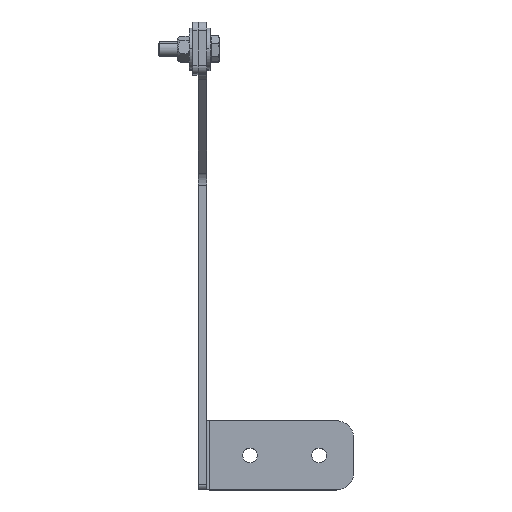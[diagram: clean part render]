
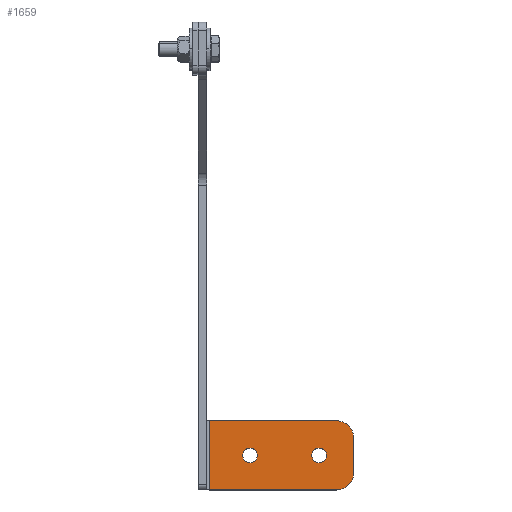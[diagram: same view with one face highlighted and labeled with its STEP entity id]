
A CAD part, top view. The second image highlights one B-rep face of the part: STEP entity #1659.
In plain terms, the highlighted planar face has unit normal (0, 0, 1) as drawn and (-1, 0, 0) by its records, which use the part's own axes.
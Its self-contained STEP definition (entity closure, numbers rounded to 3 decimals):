
#784 = CARTESIAN_POINT ( 'NONE',  ( 22.5, -235., 34.25 ) ) ;
#794 = DIRECTION ( 'NONE',  ( -1., 0., 0. ) ) ;
#795 = CARTESIAN_POINT ( 'NONE',  ( 22.5, -235., 70. ) ) ;
#796 = AXIS2_PLACEMENT_3D ( 'NONE', #795, #794, #823 ) ;
#799 = CIRCLE ( 'NONE', #796, 4.25 ) ;
#823 = DIRECTION ( 'NONE',  ( 0., 0., 1. ) ) ;
#1076 = VERTEX_POINT ( 'NONE', #2620 ) ;
#1174 = VERTEX_POINT ( 'NONE', #2887 ) ;
#1178 = EDGE_CURVE ( 'NONE', #1174, #5331, #2730, .T. ) ;
#1187 = VERTEX_POINT ( 'NONE', #2782 ) ;
#1217 = EDGE_CURVE ( 'NONE', #1621, #1594, #2760, .T. ) ;
#1567 = VERTEX_POINT ( 'NONE', #3360 ) ;
#1594 = VERTEX_POINT ( 'NONE', #3387 ) ;
#1604 = EDGE_CURVE ( 'NONE', #1567, #1621, #3536, .T. ) ;
#1621 = VERTEX_POINT ( 'NONE', #3615 ) ;
#1643 = EDGE_CURVE ( 'NONE', #1726, #1725, #3670, .T. ) ;
#1644 = EDGE_CURVE ( 'NONE', #1726, #1594, #3528, .T. ) ;
#1649 = EDGE_LOOP ( 'NONE', ( #1653, #1696 ) ) ;
#1653 = ORIENTED_EDGE ( 'NONE', *, *, #1664, .F. ) ;
#1654 = ORIENTED_EDGE ( 'NONE', *, *, #1697, .F. ) ;
#1657 = EDGE_CURVE ( 'NONE', #1686, #1567, #3568, .T. ) ;
#1659 = ADVANCED_FACE ( 'NONE', ( #3520, #3569, #3570 ), #3575, .T. ) ;
#1661 = ORIENTED_EDGE ( 'NONE', *, *, #1178, .F. ) ;
#1664 = EDGE_CURVE ( 'NONE', #1076, #1187, #3556, .T. ) ;
#1675 = EDGE_CURVE ( 'NONE', #1686, #1725, #3452, .T. ) ;
#1679 = ORIENTED_EDGE ( 'NONE', *, *, #1644, .T. ) ;
#1686 = VERTEX_POINT ( 'NONE', #3446 ) ;
#1689 = ORIENTED_EDGE ( 'NONE', *, *, #1604, .F. ) ;
#1690 = ORIENTED_EDGE ( 'NONE', *, *, #1675, .T. ) ;
#1693 = ORIENTED_EDGE ( 'NONE', *, *, #1643, .F. ) ;
#1695 = EDGE_LOOP ( 'NONE', ( #1693, #1679, #1703, #1689, #1710, #1690 ) ) ;
#1696 = ORIENTED_EDGE ( 'NONE', *, *, #5317, .F. ) ;
#1697 = EDGE_CURVE ( 'NONE', #5331, #1174, #3439, .T. ) ;
#1699 = EDGE_LOOP ( 'NONE', ( #1654, #1661 ) ) ;
#1703 = ORIENTED_EDGE ( 'NONE', *, *, #1217, .F. ) ;
#1710 = ORIENTED_EDGE ( 'NONE', *, *, #1657, .F. ) ;
#1725 = VERTEX_POINT ( 'NONE', #3592 ) ;
#1726 = VERTEX_POINT ( 'NONE', #3591 ) ;
#2620 = CARTESIAN_POINT ( 'NONE',  ( 22.5, -235., 74.25 ) ) ;
#2730 = CIRCLE ( 'NONE', #2923, 4.25 ) ;
#2753 = DIRECTION ( 'NONE',  ( 0., 0., 1. ) ) ;
#2754 = VECTOR ( 'NONE', #2753, 1000. ) ;
#2755 = CARTESIAN_POINT ( 'NONE',  ( 22.5, -215., 90. ) ) ;
#2760 = LINE ( 'NONE', #2755, #2754 ) ;
#2782 = CARTESIAN_POINT ( 'NONE',  ( 22.5, -235., 65.75 ) ) ;
#2887 = CARTESIAN_POINT ( 'NONE',  ( 22.5, -235., 25.75 ) ) ;
#2920 = DIRECTION ( 'NONE',  ( 0., 0., 1. ) ) ;
#2921 = DIRECTION ( 'NONE',  ( -1., 0., 0. ) ) ;
#2922 = CARTESIAN_POINT ( 'NONE',  ( 22.5, -235., 30. ) ) ;
#2923 = AXIS2_PLACEMENT_3D ( 'NONE', #2922, #2921, #2920 ) ;
#3360 = CARTESIAN_POINT ( 'NONE',  ( 22.5, -255., 6.5 ) ) ;
#3387 = CARTESIAN_POINT ( 'NONE',  ( 22.5, -215., 80. ) ) ;
#3433 = DIRECTION ( 'NONE',  ( 0., 0., 1. ) ) ;
#3434 = DIRECTION ( 'NONE',  ( -1., 0., 0. ) ) ;
#3435 = CARTESIAN_POINT ( 'NONE',  ( 22.5, -235., 30. ) ) ;
#3436 = AXIS2_PLACEMENT_3D ( 'NONE', #3435, #3434, #3433 ) ;
#3439 = CIRCLE ( 'NONE', #3436, 4.25 ) ;
#3446 = CARTESIAN_POINT ( 'NONE',  ( 22.5, -255., 80. ) ) ;
#3449 = DIRECTION ( 'NONE',  ( 0., 0., 1. ) ) ;
#3450 = DIRECTION ( 'NONE',  ( -1., 0., 0. ) ) ;
#3451 = AXIS2_PLACEMENT_3D ( 'NONE', #3546, #3450, #3449 ) ;
#3452 = CIRCLE ( 'NONE', #3451, 10. ) ;
#3505 = DIRECTION ( 'NONE',  ( 0., 1., 0. ) ) ;
#3520 = FACE_BOUND ( 'NONE', #1649, .T. ) ;
#3528 = CIRCLE ( 'NONE', #3664, 10. ) ;
#3535 = VECTOR ( 'NONE', #3505, 1000. ) ;
#3536 = LINE ( 'NONE', #3542, #3535 ) ;
#3542 = CARTESIAN_POINT ( 'NONE',  ( 22.5, -255., 6.5 ) ) ;
#3546 = CARTESIAN_POINT ( 'NONE',  ( 22.5, -245., 80. ) ) ;
#3548 = DIRECTION ( 'NONE',  ( 0., 0., 1. ) ) ;
#3549 = DIRECTION ( 'NONE',  ( -1., 0., 0. ) ) ;
#3556 = CIRCLE ( 'NONE', #3557, 4.25 ) ;
#3557 = AXIS2_PLACEMENT_3D ( 'NONE', #3574, #3549, #3548 ) ;
#3558 = DIRECTION ( 'NONE',  ( 0., 0., 1. ) ) ;
#3559 = DIRECTION ( 'NONE',  ( -1., 0., 0. ) ) ;
#3560 = CARTESIAN_POINT ( 'NONE',  ( 22.5, -215., 5. ) ) ;
#3566 = DIRECTION ( 'NONE',  ( 0., 0., -1. ) ) ;
#3567 = VECTOR ( 'NONE', #3566, 1000. ) ;
#3568 = LINE ( 'NONE', #3663, #3567 ) ;
#3569 = FACE_BOUND ( 'NONE', #1699, .T. ) ;
#3570 = FACE_OUTER_BOUND ( 'NONE', #1695, .T. ) ;
#3571 = AXIS2_PLACEMENT_3D ( 'NONE', #3560, #3559, #3558 ) ;
#3574 = CARTESIAN_POINT ( 'NONE',  ( 22.5, -235., 70. ) ) ;
#3575 = PLANE ( 'NONE',  #3571 ) ;
#3591 = CARTESIAN_POINT ( 'NONE',  ( 22.5, -225., 90. ) ) ;
#3592 = CARTESIAN_POINT ( 'NONE',  ( 22.5, -245., 90. ) ) ;
#3615 = CARTESIAN_POINT ( 'NONE',  ( 22.5, -215., 6.5 ) ) ;
#3655 = DIRECTION ( 'NONE',  ( 0., 0., 1. ) ) ;
#3656 = DIRECTION ( 'NONE',  ( -1., 0., 0. ) ) ;
#3660 = DIRECTION ( 'NONE',  ( 0., -1., 0. ) ) ;
#3661 = VECTOR ( 'NONE', #3660, 1000. ) ;
#3662 = CARTESIAN_POINT ( 'NONE',  ( 22.5, -255., 90. ) ) ;
#3663 = CARTESIAN_POINT ( 'NONE',  ( 22.5, -255., 5. ) ) ;
#3664 = AXIS2_PLACEMENT_3D ( 'NONE', #3667, #3656, #3655 ) ;
#3667 = CARTESIAN_POINT ( 'NONE',  ( 22.5, -225., 80. ) ) ;
#3670 = LINE ( 'NONE', #3662, #3661 ) ;
#5317 = EDGE_CURVE ( 'NONE', #1187, #1076, #799, .T. ) ;
#5331 = VERTEX_POINT ( 'NONE', #784 ) ;
